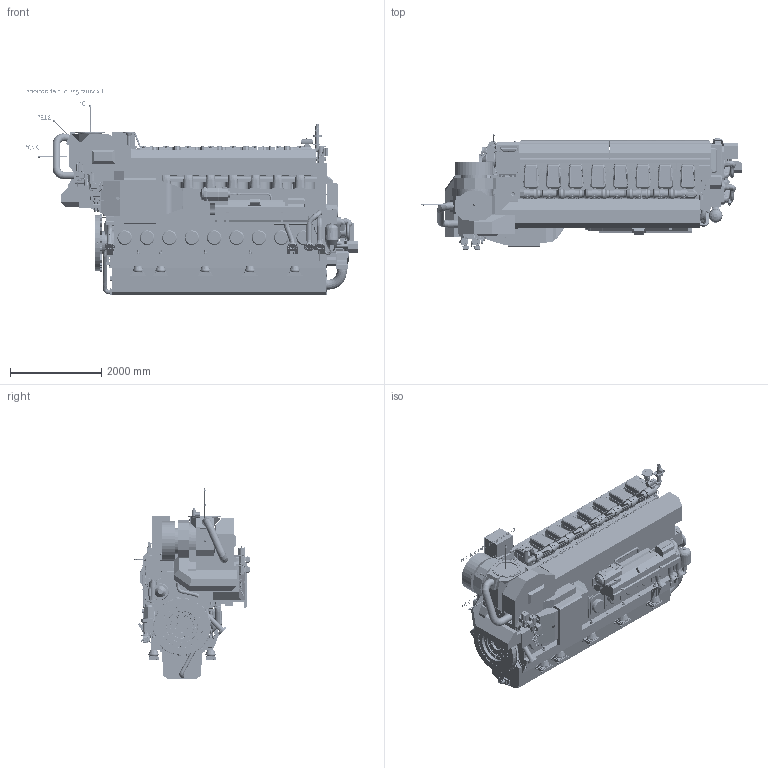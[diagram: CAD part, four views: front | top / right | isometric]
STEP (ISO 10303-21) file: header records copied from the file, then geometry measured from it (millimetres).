
FILE_DESCRIPTION(/* description */ (''),/* implementation_level */ '2;1');
FILE_NAME(/* name */ 'DAAF382184_A.stp',/* time_stamp */ '2021-12-23T11:27:21+02:00',/* author */ (''),/* organization */ (''),/* preprocessor_version */ 'ST-DEVELOPER v16.7',/* originating_system */ 'SIEMENS PLM Software NX 1915',/* authorisation */ '');
FILE_SCHEMA (('AUTOMOTIVE_DESIGN { 1 0 10303 214 3 1 1 1 }'));
Products named in the file (86): PAAE045139-A_STEEL SHEET; 001240134-A_STEEL PLATE; PAAF063632--_ENGINE BLOCK; PAAF074444--_WET SUMP; PAAF063781--_COVERS; PAAF074388--_END COVER; PAAF078074--_TURNING DEVICE; PAAF078236--_COVER; PAAF078241--_COVER; PAAF093819--_WATER CONNECTION; PAAF087145--_OIL SUCTION PIPE; PAAF093493--_STARTING AIR SYSTEM; PAAF068478--_AIR BOTTLE; PAAF078633--_BRACKET FOR LT PIPE; PAAF159661--_DRAIN PIPE; PAAF087111--_LEAK FUEL SYSTEM; PAAF087114--_LEAK FUEL SYSTEM; PAAF087136--_LUBRICATING OIL PIPES; PAAF087122--_LEAK FUEL PIPES; PAAF093585--_STARTING AIR PIPES; PAAF087082--_A_LEAK FUEL PIPES; PAAF064319--_COVERS; PAAF238216--_CRANKSHAFT; PAAF243622--_FUEL PIPES; PAAF243689--_AIR VENT SYSTEM; PAAF243686--_CENTRIFUGAL FILTER; PAAF243352--_OIL PIPE; PAAF243671--_PUMP COVER; PAAF243662--_LUBE OIL MODULE; PAAF243367--_GOVERNOR; PAAF247485--_LUBRICATING OIL PUMP; PAAF247479--_FRAME; PAAF261809--_LUBRICATING OIL FILTER; PAAF078620--_LT-WATER PIPES; PAAF078622--_LT-WATER PIPES; PAAF270351--_EQUIPMENT; PAAF271372--_MOTOR; PAAF291916--_INTERMEDIATE GEAR; PAAF397145--_COVERS; PAAF078619--_LT-WATER PIPES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
Assembly tree (159 placements, depth 4):
  DAAF382184_A-Outline drawing
    PABA330986--_W8L32-MOUNTING_MODEL
      PABA122708--_INTERMEDIATE PLATE_MODEL  x10
        001240134-A_STEEL PLATE
      PAAF809612-A_FIXING PLATE_MODEL  x10
        001240134-A_STEEL PLATE
      0031B006100-K_ROUND NUT_MODEL  x10
      PAAF523057--  x10
      PAAF524017--_STUD  x10
    PABA330984--_W8L34DFC-TCD_MODEL
      PABA135300--_Electrical equipment for lube oil module
      PAAF906204--_SHUT-DOWN MECHANISM
      PAAF675626--_OIL MIST DETECTOR
      PAAF078708--_ACTUATOR
      PAAF074990--_BOOSTER MOTOR
      PABA036862--_Cylinder heads multiducts cylinder liner
      PAAF676811--_CLEANING DEVICE
      PABA065852--_Gas feed pipe from roof
      PAAF619118--_COVERS
      PABA089633--_Gas vent system connecting flange
      PAAF975946--_gas pipe between cylinders  x7
      PAAF975926--_main gas admission valve  x8
      PABA066964--_Double wall gas vent system
      PAAF895907--_COVERS
      PAAF976975--_Cylinder head covers 8L
      PAAF977035--_Electrical equipment for side cover 8L
      PAAF976966--_Covers top shields 8L
      PAAF063770--_COVERS
      PAAF407546--_INSULATING BOX
      PAAF906214--_ELECTRICAL EQUIPMENT
      PAAF909498--_LOCAL CONTROL PANEL
      PAAF906213--_NITROGEN GAS PIPE
      PAAF573269--_COVER PLATE_MODEL
        PAAE045139-A_STEEL SHEET
      PAAF356777-A_BRACKET_MODEL
      PAAF001472-B_BRACKET_MODEL
      PAAF168390-A_ACTUATOR  x2
      PAAF620935--_CHARGE AIR SYSTEM
      PAAF619539--_TURBOCHARGER
      PAAF619521--_WASTEGATE PIPE
      PAAF523155--_Insulation box base part
      PAAF616354--_TURBOCHARGER BRACKET
      PAAF293701--_MULTIDUCT  x8
      PAAF243503--_CYLINDER HEAD  x8
      PAAF555086--_PUMP COVER
      PAAF555085--_PUMP COVER
      PAAF497278--_LUBRICATING OIL PIPES
      PAAF078619--_LT-WATER PIPES
      PAAF397145--_COVERS
      PAAF291916--_INTERMEDIATE GEAR
      PAAF271372--_MOTOR
      PAAF270351--_EQUIPMENT
      PAAF078622--_LT-WATER PIPES
      PAAF078620--_LT-WATER PIPES
      PAAF261809--_LUBRICATING OIL FILTER
      PAAF247479--_FRAME
      PAAF247485--_LUBRICATING OIL PUMP
      PAAF243367--_GOVERNOR
      PAAF243662--_LUBE OIL MODULE
      PAAF243671--_PUMP COVER
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Bounding box: 7271.02 x 2523.4 x 4531.68 mm (x, y, z)
Volume: 17380307885.6 mm3; surface area: 261007016.9 mm2
Topology: 448 solids, 483 shells, 25645 faces, 65924 edges, 42571 vertices
Faces by surface type: plane 11498, cylinder 6644, bspline 3740, revolution 1279, cone 1016, torus 783, extrusion 643, sphere 42
Full cylindrical faces by diameter (mm): 1 x8, 3 x3, 6 x14, 6.2 x80, 6.75 x3, 7 x35, 8 x57, 8.4 x10, 9 x5, 9.539 x2, 10 x38, 10.2 x18, 10.301 x2, 11 x5, 11.908 x1, 12 x61, 12.3 x1, 13.2 x4, 13.5 x4, 14 x23, 15 x23, 15.5 x36, 15.6 x4, 15.7 x4, 16 x17, 17 x10, 17.5 x86, 18 x150, 18.496 x2, 18.5 x2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
Entity records: 798503 total; most frequent: CARTESIAN_POINT 315802, ORIENTED_EDGE 96074, DIRECTION 86215, EDGE_CURVE 48037, VERTEX_POINT 32040, AXIS2_PLACEMENT_3D 29726, VECTOR 26119, LINE 25476
